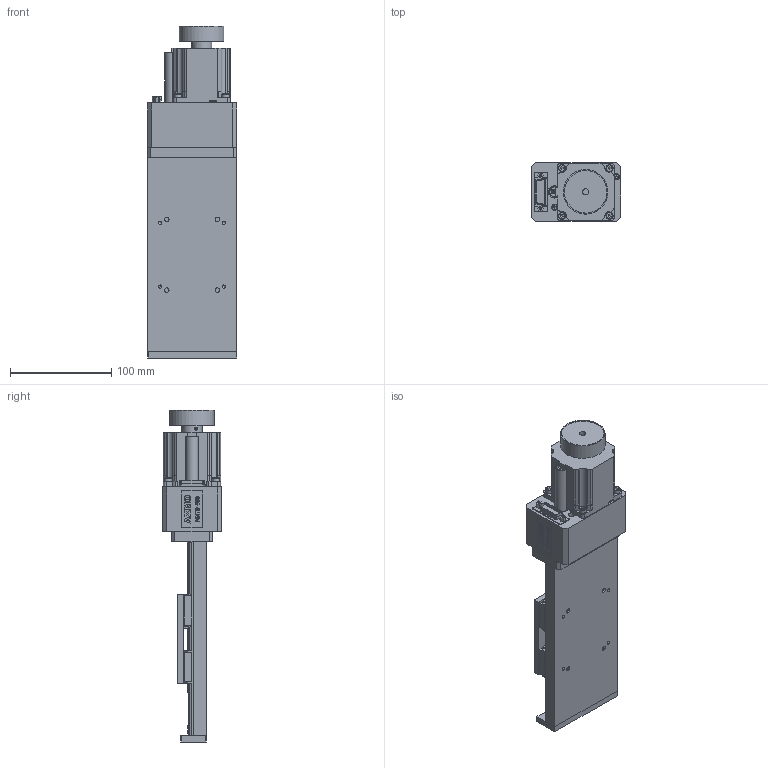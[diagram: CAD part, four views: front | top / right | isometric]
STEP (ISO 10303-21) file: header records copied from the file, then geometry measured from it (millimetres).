
FILE_DESCRIPTION((''),'2;1');
FILE_NAME('C:\Axmo\Axmo autodesk\Designs\Standard\1437 mnt9\MNT9-100.stp','2011-09-13T16:08:18',('AXMOBE'),(''),'Autodesk Inventor 2011','Autodesk Inventor 2011','');
FILE_SCHEMA(('AUTOMOTIVE_DESIGN { 1 2 10303 214 0 1 1 1 }'));
Length unit declared in the file: millimetre
Products named in the file (1): 1437 00 ENS 000-100_Enveloppe_1
Bounding box: 88.1 x 58 x 328 mm (x, y, z)
Volume: 683417.9 mm3; surface area: 153667.5 mm2
Topology: 2 solids, 131 shells, 2257 faces, 5354 edges, 3455 vertices
Faces by surface type: plane 1396, cylinder 470, cone 162, torus 127, bspline 86, sphere 16
Full cylindrical faces by diameter (mm): 1 x10, 1.5 x16, 1.567 x4, 1.754 x4, 2 x4, 2.013 x8, 2.1 x2, 2.25 x4, 2.459 x59, 2.5 x2, 2.8 x1, 3 x46, 3.1 x4, 3.242 x17, 3.5 x40, 4 x4, 4.5 x5, 5 x6, 5.5 x38, 5.7 x2, 6 x37, 6.2 x1, 6.35 x3, 6.459 x2, 7 x8, 7.5 x4, 7.8 x1, 8 x2, 9 x1, 10 x1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
Entity records: 63304 total; most frequent: CARTESIAN_POINT 13907, DIRECTION 9450, ORIENTED_EDGE 8860, EDGE_CURVE 4430, AXIS2_PLACEMENT_3D 3421, EDGE_LOOP 3187, VERTEX_POINT 3161, VECTOR 2608
